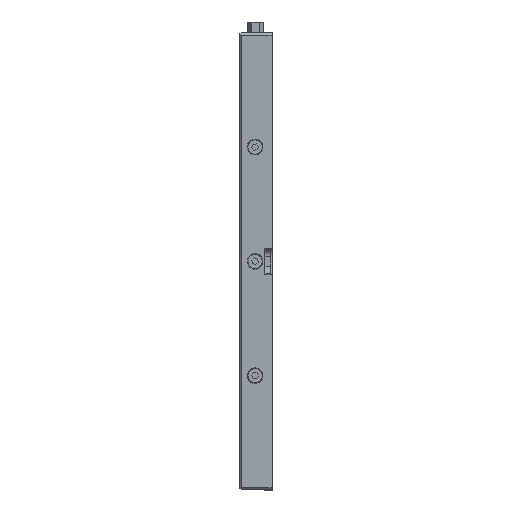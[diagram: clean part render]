
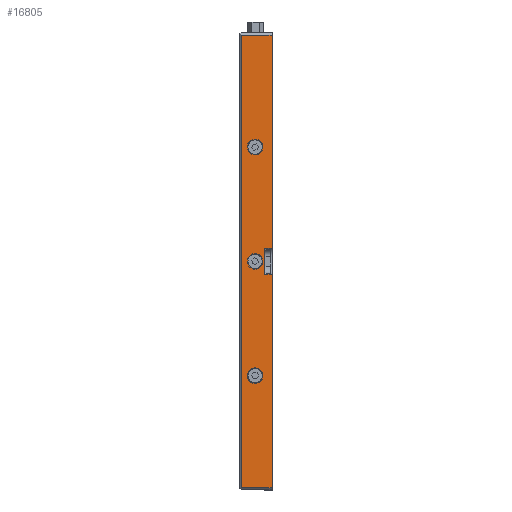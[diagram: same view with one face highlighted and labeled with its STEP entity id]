
A CAD part, left-side view. The second image highlights one B-rep face of the part: STEP entity #16805.
In plain terms, the highlighted planar face has unit normal (-1, 0, 0).
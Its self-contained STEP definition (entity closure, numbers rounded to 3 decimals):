
#42 = VECTOR ( 'NONE', #12054, 1000. ) ;
#157 = DIRECTION ( 'NONE',  ( 1., 0., 0. ) ) ;
#657 = CIRCLE ( 'NONE', #16608, 6. ) ;
#1378 = FACE_BOUND ( 'NONE', #7071, .T. ) ;
#1941 = LINE ( 'NONE', #12460, #6513 ) ;
#1990 = ORIENTED_EDGE ( 'NONE', *, *, #20432, .T. ) ;
#2067 = EDGE_LOOP ( 'NONE', ( #5779, #21509, #14964, #19080, #17181, #1990, #12381, #13202 ) ) ;
#2427 = VERTEX_POINT ( 'NONE', #13080 ) ;
#2709 = VECTOR ( 'NONE', #14481, 1000. ) ;
#2775 = DIRECTION ( 'NONE',  ( 1., 0., 0. ) ) ;
#2818 = EDGE_CURVE ( 'NONE', #8757, #9208, #18451, .T. ) ;
#3175 = DIRECTION ( 'NONE',  ( 1., 0., 0. ) ) ;
#3179 = ORIENTED_EDGE ( 'NONE', *, *, #21907, .F. ) ;
#3484 = EDGE_CURVE ( 'NONE', #18582, #4992, #4348, .T. ) ;
#3836 = CARTESIAN_POINT ( 'NONE',  ( -192., 14.3, 96. ) ) ;
#3935 = VECTOR ( 'NONE', #15466, 1000. ) ;
#4132 = CARTESIAN_POINT ( 'NONE',  ( -192., 0., 192. ) ) ;
#4315 = EDGE_CURVE ( 'NONE', #9833, #5009, #21922, .T. ) ;
#4348 = CIRCLE ( 'NONE', #9191, 6. ) ;
#4582 = CARTESIAN_POINT ( 'NONE',  ( -192., 27., -11. ) ) ;
#4992 = VERTEX_POINT ( 'NONE', #11880 ) ;
#5009 = VERTEX_POINT ( 'NONE', #22281 ) ;
#5247 = CARTESIAN_POINT ( 'NONE',  ( -192., 27., 192. ) ) ;
#5356 = VERTEX_POINT ( 'NONE', #10455 ) ;
#5386 = VERTEX_POINT ( 'NONE', #7047 ) ;
#5440 = DIRECTION ( 'NONE',  ( -1., 0., 0. ) ) ;
#5583 = DIRECTION ( 'NONE',  ( 0., 0., 1. ) ) ;
#5616 = CARTESIAN_POINT ( 'NONE',  ( -192., 14.3, 0. ) ) ;
#5779 = ORIENTED_EDGE ( 'NONE', *, *, #2818, .T. ) ;
#6070 = DIRECTION ( 'NONE',  ( 0., -1., 0. ) ) ;
#6086 = LINE ( 'NONE', #14616, #14721 ) ;
#6475 = AXIS2_PLACEMENT_3D ( 'NONE', #10485, #157, #12225 ) ;
#6513 = VECTOR ( 'NONE', #19396, 1000. ) ;
#7047 = CARTESIAN_POINT ( 'NONE',  ( -192., 26., -190. ) ) ;
#7071 = EDGE_LOOP ( 'NONE', ( #12183, #20658 ) ) ;
#7134 = DIRECTION ( 'NONE',  ( 1., 0., 0. ) ) ;
#7347 = DIRECTION ( 'NONE',  ( 0., 0., -1. ) ) ;
#7564 = CARTESIAN_POINT ( 'NONE',  ( -192., 14.3, 102. ) ) ;
#7601 = VERTEX_POINT ( 'NONE', #17157 ) ;
#7628 = EDGE_CURVE ( 'NONE', #15025, #7601, #12033, .T. ) ;
#7698 = ORIENTED_EDGE ( 'NONE', *, *, #22453, .F. ) ;
#7946 = EDGE_CURVE ( 'NONE', #2427, #5386, #6086, .T. ) ;
#8697 = EDGE_CURVE ( 'NONE', #5009, #9833, #657, .T. ) ;
#8757 = VERTEX_POINT ( 'NONE', #20584 ) ;
#9191 = AXIS2_PLACEMENT_3D ( 'NONE', #5616, #17740, #7347 ) ;
#9208 = VERTEX_POINT ( 'NONE', #13492 ) ;
#9487 = CARTESIAN_POINT ( 'NONE',  ( -192., 27., 190. ) ) ;
#9583 = CARTESIAN_POINT ( 'NONE',  ( -192., 14.3, -6. ) ) ;
#9833 = VERTEX_POINT ( 'NONE', #10677 ) ;
#10341 = EDGE_CURVE ( 'NONE', #9208, #5356, #21955, .T. ) ;
#10455 = CARTESIAN_POINT ( 'NONE',  ( -192., 6., -11. ) ) ;
#10485 = CARTESIAN_POINT ( 'NONE',  ( -192., 14.3, 0. ) ) ;
#10677 = CARTESIAN_POINT ( 'NONE',  ( -192., 14.3, -90. ) ) ;
#11233 = ORIENTED_EDGE ( 'NONE', *, *, #22343, .T. ) ;
#11880 = CARTESIAN_POINT ( 'NONE',  ( -192., 14.3, 6. ) ) ;
#12033 = LINE ( 'NONE', #22391, #3935 ) ;
#12054 = DIRECTION ( 'NONE',  ( 0., 0., 1. ) ) ;
#12183 = ORIENTED_EDGE ( 'NONE', *, *, #4315, .T. ) ;
#12225 = DIRECTION ( 'NONE',  ( 0., 0., -1. ) ) ;
#12381 = ORIENTED_EDGE ( 'NONE', *, *, #7946, .T. ) ;
#12454 = LINE ( 'NONE', #9487, #21143 ) ;
#12460 = CARTESIAN_POINT ( 'NONE',  ( -192., 6., -10. ) ) ;
#12884 = DIRECTION ( 'NONE',  ( 0., 0., -1. ) ) ;
#13080 = CARTESIAN_POINT ( 'NONE',  ( -192., 26., 190. ) ) ;
#13105 = CARTESIAN_POINT ( 'NONE',  ( -192., 14.3, -96. ) ) ;
#13202 = ORIENTED_EDGE ( 'NONE', *, *, #15492, .T. ) ;
#13448 = CIRCLE ( 'NONE', #20422, 6. ) ;
#13467 = CIRCLE ( 'NONE', #21281, 6. ) ;
#13492 = CARTESIAN_POINT ( 'NONE',  ( -192., 0., -11. ) ) ;
#13508 = CARTESIAN_POINT ( 'NONE',  ( -192., 14.3, -96. ) ) ;
#13705 = AXIS2_PLACEMENT_3D ( 'NONE', #13105, #2775, #14834 ) ;
#13766 = CARTESIAN_POINT ( 'NONE',  ( -192., 0., 192. ) ) ;
#13972 = VERTEX_POINT ( 'NONE', #19592 ) ;
#13999 = EDGE_CURVE ( 'NONE', #7601, #15621, #17859, .T. ) ;
#14034 = EDGE_LOOP ( 'NONE', ( #20654, #11233 ) ) ;
#14481 = DIRECTION ( 'NONE',  ( 0., 0., 1. ) ) ;
#14611 = FACE_OUTER_BOUND ( 'NONE', #2067, .T. ) ;
#14616 = CARTESIAN_POINT ( 'NONE',  ( -192., 26., 192. ) ) ;
#14721 = VECTOR ( 'NONE', #12884, 1000. ) ;
#14824 = CARTESIAN_POINT ( 'NONE',  ( -192., 6., 11. ) ) ;
#14834 = DIRECTION ( 'NONE',  ( 0., 0., -1. ) ) ;
#14923 = DIRECTION ( 'NONE',  ( 0., 1., 0. ) ) ;
#14964 = ORIENTED_EDGE ( 'NONE', *, *, #20249, .F. ) ;
#15025 = VERTEX_POINT ( 'NONE', #14824 ) ;
#15141 = FACE_BOUND ( 'NONE', #14034, .T. ) ;
#15264 = DIRECTION ( 'NONE',  ( 0., 0., -1. ) ) ;
#15466 = DIRECTION ( 'NONE',  ( 0., -1., 0. ) ) ;
#15492 = EDGE_CURVE ( 'NONE', #5386, #8757, #20124, .T. ) ;
#15497 = VECTOR ( 'NONE', #6070, 1000. ) ;
#15530 = PLANE ( 'NONE',  #18260 ) ;
#15621 = VERTEX_POINT ( 'NONE', #18771 ) ;
#15635 = CIRCLE ( 'NONE', #6475, 6. ) ;
#15804 = CARTESIAN_POINT ( 'NONE',  ( -192., 14.3, 96. ) ) ;
#15938 = DIRECTION ( 'NONE',  ( -1., 0., 0. ) ) ;
#16608 = AXIS2_PLACEMENT_3D ( 'NONE', #13508, #3175, #15264 ) ;
#16805 = ADVANCED_FACE ( 'NONE', ( #14611, #19245, #15141, #1378 ), #15530, .F. ) ;
#17157 = CARTESIAN_POINT ( 'NONE',  ( -192., 0., 11. ) ) ;
#17181 = ORIENTED_EDGE ( 'NONE', *, *, #13999, .T. ) ;
#17343 = VECTOR ( 'NONE', #14923, 1000. ) ;
#17562 = DIRECTION ( 'NONE',  ( 0., 0., 1. ) ) ;
#17643 = EDGE_LOOP ( 'NONE', ( #3179, #7698 ) ) ;
#17740 = DIRECTION ( 'NONE',  ( 1., 0., 0. ) ) ;
#17859 = LINE ( 'NONE', #4132, #2709 ) ;
#17953 = CARTESIAN_POINT ( 'NONE',  ( -192., 27., -190. ) ) ;
#18156 = DIRECTION ( 'NONE',  ( 0., 1., 0. ) ) ;
#18260 = AXIS2_PLACEMENT_3D ( 'NONE', #5247, #7134, #19243 ) ;
#18451 = LINE ( 'NONE', #13766, #42 ) ;
#18501 = VERTEX_POINT ( 'NONE', #7564 ) ;
#18582 = VERTEX_POINT ( 'NONE', #9583 ) ;
#18771 = CARTESIAN_POINT ( 'NONE',  ( -192., 0., 190. ) ) ;
#19080 = ORIENTED_EDGE ( 'NONE', *, *, #7628, .T. ) ;
#19243 = DIRECTION ( 'NONE',  ( 0., 0., -1. ) ) ;
#19245 = FACE_BOUND ( 'NONE', #17643, .T. ) ;
#19396 = DIRECTION ( 'NONE',  ( 0., 0., -1. ) ) ;
#19592 = CARTESIAN_POINT ( 'NONE',  ( -192., 14.3, 90. ) ) ;
#20124 = LINE ( 'NONE', #17953, #15497 ) ;
#20249 = EDGE_CURVE ( 'NONE', #15025, #5356, #1941, .T. ) ;
#20422 = AXIS2_PLACEMENT_3D ( 'NONE', #3836, #15938, #5583 ) ;
#20432 = EDGE_CURVE ( 'NONE', #15621, #2427, #12454, .T. ) ;
#20584 = CARTESIAN_POINT ( 'NONE',  ( -192., 0., -190. ) ) ;
#20654 = ORIENTED_EDGE ( 'NONE', *, *, #3484, .T. ) ;
#20658 = ORIENTED_EDGE ( 'NONE', *, *, #8697, .T. ) ;
#21143 = VECTOR ( 'NONE', #18156, 1000. ) ;
#21281 = AXIS2_PLACEMENT_3D ( 'NONE', #15804, #5440, #17562 ) ;
#21509 = ORIENTED_EDGE ( 'NONE', *, *, #10341, .T. ) ;
#21907 = EDGE_CURVE ( 'NONE', #18501, #13972, #13467, .T. ) ;
#21922 = CIRCLE ( 'NONE', #13705, 6. ) ;
#21955 = LINE ( 'NONE', #4582, #17343 ) ;
#22281 = CARTESIAN_POINT ( 'NONE',  ( -192., 14.3, -102. ) ) ;
#22343 = EDGE_CURVE ( 'NONE', #4992, #18582, #15635, .T. ) ;
#22391 = CARTESIAN_POINT ( 'NONE',  ( -192., 27., 11. ) ) ;
#22453 = EDGE_CURVE ( 'NONE', #13972, #18501, #13448, .T. ) ;
